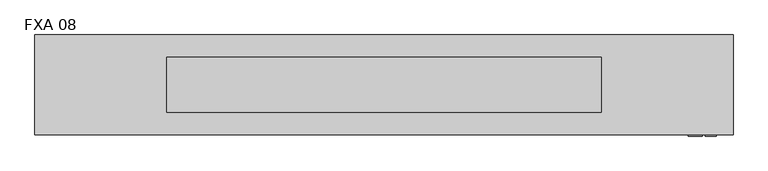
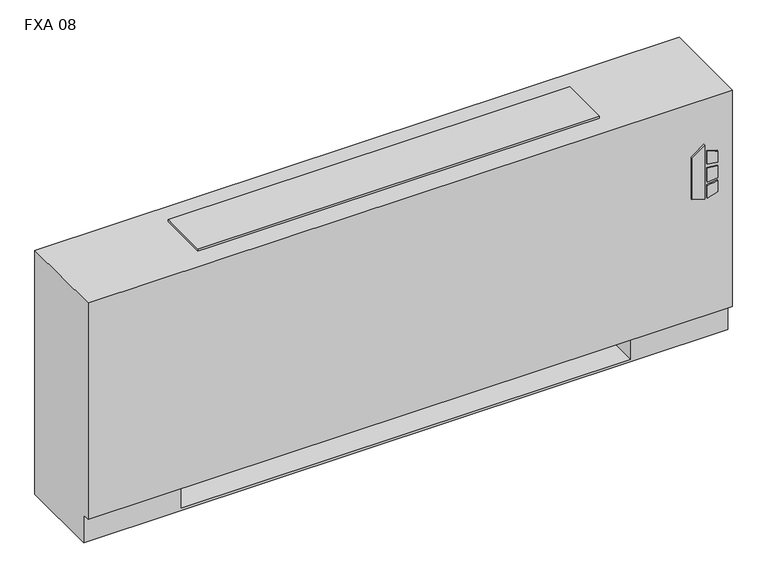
"""IFC4 building model written with IfcOpenShell, lengths in millimetres: proxy geometry, Vertical_Fan_Coil_Unit_-_FXA_-_IEC_-_4-Pipe_TS-FR_RH_2022 : FXA 08."""

from ifc_helpers import new_model, si_unit, point, frame, frame_2d, origin, place, context, project, spatial, polyline, circle_curve, trimmed, segment, composite_curve, outline, extrude, source, transform, mapped, element, save
from ifc_brep_helpers import plane_surface, revolved_surface, advanced_brep


def fxa_08_e378bd23(model_context):
    return source(origin(), model_context, "Body", "SolidModel", [
        extrude(outline(polyline([(391.6086829, 849.3868862), (381.6606126, 881.5602728), (523.831537, 881.5602728), (500.8095309, 849.3868862), (391.6086829, 849.3868862)])), frame((0.0, 12.7, 0.0), z_axis=(0.0, 1.0, 0.0), x_axis=(0.0, 0.0, 1.0)), (0.0, 0.0, 1.0), 3.175),
        extrude(outline(polyline([(470.6079683, 888.3186058), (467.4055757, 914.4), (496.6344168, 914.4), (504.6988318, 888.3186058), (470.6079683, 888.3186058)])), frame((0.0, 12.7, 0.0), z_axis=(0.0, 1.0, 0.0), x_axis=(0.0, 0.0, 1.0)), (0.0, 0.0, 1.0), 3.175),
        extrude(outline(polyline([(418.7444414, 914.4), (415.0789404, 888.3186058), (381.6606126, 888.3186058), (390.2948498, 914.4), (418.7444414, 914.4)])), frame((0.0, 12.7, 0.0), z_axis=(0.0, 1.0, 0.0), x_axis=(0.0, 0.0, 1.0)), (0.0, 0.0, 1.0), 3.175),
        extrude(outline(polyline([(458.0596028, 914.4), (460.3414292, 888.3186058), (424.4038806, 888.3186058), (427.1451456, 914.4), (458.0596028, 914.4)])), frame((0.0, 12.7, 0.0), z_axis=(0.0, 1.0, 0.0), x_axis=(0.0, 0.0, 1.0)), (0.0, 0.0, 1.0), 3.175),
        extrude(outline(polyline([(-527.05, 81.534), (-527.05, 223.266), (-406.4, 223.266), (-406.4, 81.534), (-527.05, 81.534)])), frame((0.0, 0.0, 327.025), z_axis=(0.0, 0.0, 1.0), x_axis=(1.0, 0.0, 0.0)), (0.0, 0.0, 1.0), 260.35),
        extrude(outline(composite_curve([segment(trimmed(circle_curve(frame_2d((774.7, 130.175)), 9.525), [point((765.175, 130.175))], [point((784.225, 130.175))], False, "CARTESIAN"), True, "CONTINUOUS"), segment(trimmed(circle_curve(frame_2d((774.7, 130.175)), 9.525), [point((784.225, 130.175))], [point((765.175, 130.175))], False, "CARTESIAN"), True, "CONTINUOUS")], self_intersect=False)), frame((0.0, 0.0, 101.6), z_axis=(0.0, 0.0, 1.0), x_axis=(1.0, 0.0, 0.0)), (0.0, 0.0, 1.0), 25.4),
        extrude(outline(polyline([(869.95, 196.85), (869.95, 63.5), (711.2, 63.5), (711.2, 196.85), (869.95, 196.85)])), frame((0.0, 0.0, 127.0), z_axis=(0.0, 0.0, 1.0), x_axis=(1.0, 0.0, 0.0)), (0.0, 0.0, 1.0), 50.8),
        extrude(outline(composite_curve([segment(trimmed(circle_curve(frame_2d((109.0168, 457.2)), 7.9375), [point((109.0168, 465.1375))], [point((109.0168, 449.2625))], False, "CARTESIAN"), True, "CONTINUOUS"), segment(trimmed(circle_curve(frame_2d((109.0168, 457.2)), 7.9375), [point((109.0168, 449.2625))], [point((109.0168, 465.1375))], False, "CARTESIAN"), True, "CONTINUOUS")], self_intersect=False)), frame((711.2, 0.0, 0.0), z_axis=(1.0, 0.0, 0.0), x_axis=(0.0, 1.0, 0.0)), (0.0, 0.0, 1.0), 50.8),
        extrude(outline(composite_curve([segment(trimmed(circle_curve(frame_2d((172.085, 460.0194)), 7.9375), [point((172.085, 467.9569))], [point((172.085, 452.0819))], False, "CARTESIAN"), True, "CONTINUOUS"), segment(trimmed(circle_curve(frame_2d((172.085, 460.0194)), 7.9375), [point((172.085, 452.0819))], [point((172.085, 467.9569))], False, "CARTESIAN"), True, "CONTINUOUS")], self_intersect=False)), frame((711.2, 0.0, 0.0), z_axis=(1.0, 0.0, 0.0), x_axis=(0.0, 1.0, 0.0)), (0.0, 0.0, 1.0), 50.8),
        extrude(outline(composite_curve([segment(trimmed(circle_curve(frame_2d((130.175, 554.99)), 7.9502), [point((130.175, 562.9402))], [point((130.175, 547.0398))], False, "CARTESIAN"), True, "CONTINUOUS"), segment(trimmed(circle_curve(frame_2d((130.175, 554.99)), 7.9502), [point((130.175, 547.0398))], [point((130.175, 562.9402))], False, "CARTESIAN"), True, "CONTINUOUS")], self_intersect=False)), frame((711.2, 0.0, 0.0), z_axis=(1.0, 0.0, 0.0), x_axis=(0.0, 1.0, 0.0)), (0.0, 0.0, 1.0), 50.8),
        extrude(outline(composite_curve([segment(trimmed(circle_curve(frame_2d((53.975, 416.56)), 7.9502), [point((53.975, 424.5102))], [point((53.975, 408.6098))], False, "CARTESIAN"), True, "CONTINUOUS"), segment(trimmed(circle_curve(frame_2d((53.975, 416.56)), 7.9502), [point((53.975, 408.6098))], [point((53.975, 424.5102))], False, "CARTESIAN"), True, "CONTINUOUS")], self_intersect=False)), frame((711.2, 0.0, 0.0), z_axis=(1.0, 0.0, 0.0), x_axis=(0.0, 1.0, 0.0)), (0.0, 0.0, 1.0), 50.8),
        advanced_brep(
        [(952.5, 244.475, 641.35), (-647.7, 244.475, 641.35), (-647.7, 15.875, 641.35), (952.5, 15.875, 641.35), (-647.7, 244.475, 0.0), (952.5, 244.475, 0.0), (952.5, 34.925, 0.0), (-647.7, 34.925, 0.0), (711.2, 244.475, 73.025), (939.8, 244.475, 73.025), (939.8, 244.475, 628.65), (711.2, 244.475, 628.65), (711.2, 244.475, 414.8650565), (739.775, 244.475, 414.8650565), (739.775, 244.475, 385.2349435), (711.2, 244.475, 385.2349435), (711.2, 244.475, 287.3375), (739.775, 244.475, 287.3375), (739.775, 244.475, 258.7625), (711.2, 244.475, 258.7625), (711.2, 244.475, 141.2875), (739.775, 244.475, 141.2875), (739.775, 244.475, 112.7125), (711.2, 244.475, 112.7125), (-406.4, 244.475, 628.65), (-635.0, 244.475, 628.65), (-635.0, 244.475, 73.025), (-406.4, 244.475, 73.025), (-406.4, 244.475, 112.7125), (-434.975, 244.475, 112.7125), (-434.975, 244.475, 141.2875), (-406.4, 244.475, 141.2875), (-406.4, 244.475, 258.7625), (-434.975, 244.475, 258.7625), (-434.975, 244.475, 287.3375), (-406.4, 244.475, 287.3375), (-406.4, 244.475, 385.2349435), (-434.975, 244.475, 385.2349435), (-434.975, 244.475, 414.8650565), (-406.4, 244.475, 414.8650565), (729.4626, 244.475, 127.0), (718.3374, 244.475, 127.0), (729.4626, 244.475, 400.05), (718.3374, 244.475, 400.05), (729.4626, 244.475, 273.05), (718.3374, 244.475, 273.05), (-413.5374, 244.475, 127.0), (-424.6626, 244.475, 127.0), (-413.5374, 244.475, 273.05), (-424.6626, 244.475, 273.05), (-413.5374, 244.475, 400.05), (-424.6626, 244.475, 400.05), (-647.7, 34.925, 73.025), (-647.7, 15.875, 73.025), (952.5, 15.875, 73.025), (952.5, 34.925, 73.025), (-406.4, 34.925, 73.025), (-406.4, 219.075, 73.025), (711.2, 219.075, 73.025), (711.2, 34.925, 73.025), (711.2, 34.925, 6.35), (-406.4, 34.925, 6.35), (711.2, 41.275, 628.65), (939.8, 41.275, 628.65), (939.8, 41.275, 73.025), (711.2, 41.275, 73.025), (-406.4, 41.275, 628.65), (-406.4, 41.275, 73.025), (-635.0, 41.275, 73.025), (-635.0, 41.275, 628.65), (711.2, 219.075, 73.025), (711.2, 238.125, 112.7125), (711.2, 238.125, 141.2875), (711.2, 238.125, 258.7625), (711.2, 238.125, 287.3375), (711.2, 238.125, 385.2349435), (711.2, 238.125, 414.8650565), (-406.4, 219.075, 73.025), (-406.4, 238.125, 414.8650565), (-406.4, 238.125, 385.2349435), (-406.4, 238.125, 287.3375), (-406.4, 238.125, 258.7625), (-406.4, 238.125, 141.2875), (-406.4, 238.125, 112.7125), (-406.4, 219.075, 6.35), (711.2, 219.075, 6.35), (739.775, 238.125, 112.7125), (739.775, 238.125, 141.2875), (718.3374, 238.125, 127.0), (729.4626, 238.125, 127.0), (739.775, 238.125, 258.7625), (739.775, 238.125, 287.3375), (718.3374, 238.125, 273.05), (729.4626, 238.125, 273.05), (739.775, 238.125, 385.2349435), (739.775, 238.125, 414.8650565), (718.3374, 238.125, 400.05), (729.4626, 238.125, 400.05), (-434.975, 238.125, 141.2875), (-434.975, 238.125, 112.7125), (-424.6626, 238.125, 127.0), (-413.5374, 238.125, 127.0), (-434.975, 238.125, 287.3375), (-434.975, 238.125, 258.7625), (-424.6626, 238.125, 273.05), (-413.5374, 238.125, 273.05), (-434.975, 238.125, 414.8650565), (-434.975, 238.125, 385.2349435), (-424.6626, 238.125, 400.05), (-413.5374, 238.125, 400.05)],
        [
            (0, 1),
            (1, 2),
            (2, 3),
            (3, 0),
            (4, 5),
            (5, 6),
            (6, 7),
            (7, 4),
            (0, 5),
            (4, 1),
            (8, 9),
            (9, 10),
            (10, 11),
            (11, 12),
            (12, 13),
            (13, 14),
            (14, 15),
            (15, 16),
            (16, 17),
            (17, 18),
            (18, 19),
            (19, 20),
            (20, 21),
            (21, 22),
            (22, 23),
            (23, 8),
            (24, 25),
            (25, 26),
            (26, 27),
            (27, 28),
            (28, 29),
            (29, 30),
            (30, 31),
            (31, 32),
            (32, 33),
            (33, 34),
            (34, 35),
            (35, 36),
            (36, 37),
            (37, 38),
            (38, 39),
            (39, 24),
            (40, 41, circle_curve(frame((723.9, 244.475, 127.0), z_axis=(0.0, -1.0, 0.0), x_axis=(-1.0, 0.0, 0.0)), 5.5626)),
            (41, 40, circle_curve(frame((723.9, 244.475, 127.0), z_axis=(0.0, -1.0, 0.0), x_axis=(-1.0, 0.0, 0.0)), 5.5626)),
            (42, 43, circle_curve(frame((723.9, 244.475, 400.05), z_axis=(0.0, -1.0, 0.0), x_axis=(-1.0, 0.0, 0.0)), 5.5626)),
            (43, 42, circle_curve(frame((723.9, 244.475, 400.05), z_axis=(0.0, -1.0, 0.0), x_axis=(-1.0, 0.0, 0.0)), 5.5626)),
            (44, 45, circle_curve(frame((723.9, 244.475, 273.05), z_axis=(0.0, -1.0, 0.0), x_axis=(-1.0, 0.0, 0.0)), 5.5626)),
            (45, 44, circle_curve(frame((723.9, 244.475, 273.05), z_axis=(0.0, -1.0, 0.0), x_axis=(-1.0, 0.0, 0.0)), 5.5626)),
            (46, 47, circle_curve(frame((-419.1, 244.475, 127.0), z_axis=(0.0, -1.0, 0.0), x_axis=(-1.0, 0.0, 0.0)), 5.5626)),
            (47, 46, circle_curve(frame((-419.1, 244.475, 127.0), z_axis=(0.0, -1.0, 0.0), x_axis=(-1.0, 0.0, 0.0)), 5.5626)),
            (48, 49, circle_curve(frame((-419.1, 244.475, 273.05), z_axis=(0.0, -1.0, 0.0), x_axis=(-1.0, 0.0, 0.0)), 5.5626)),
            (49, 48, circle_curve(frame((-419.1, 244.475, 273.05), z_axis=(0.0, -1.0, 0.0), x_axis=(-1.0, 0.0, 0.0)), 5.5626)),
            (50, 51, circle_curve(frame((-419.1, 244.475, 400.05), z_axis=(0.0, -1.0, 0.0), x_axis=(-1.0, 0.0, 0.0)), 5.5626)),
            (51, 50, circle_curve(frame((-419.1, 244.475, 400.05), z_axis=(0.0, -1.0, 0.0), x_axis=(-1.0, 0.0, 0.0)), 5.5626)),
            (7, 52),
            (52, 53),
            (53, 2),
            (53, 54),
            (54, 3),
            (54, 55),
            (55, 6),
            (52, 56),
            (56, 57),
            (57, 58),
            (58, 59),
            (59, 55),
            (59, 60),
            (60, 61),
            (61, 56),
            (62, 63),
            (63, 64),
            (64, 65),
            (65, 62),
            (66, 67),
            (67, 68),
            (68, 69),
            (69, 66),
            (65, 70),
            (70, 8),
            (23, 71),
            (71, 72),
            (72, 20),
            (19, 73),
            (73, 74),
            (74, 16),
            (15, 75),
            (75, 76),
            (76, 12),
            (11, 62),
            (64, 9),
            (63, 10),
            (69, 25),
            (24, 66),
            (68, 26),
            (67, 77),
            (77, 27),
            (39, 78),
            (78, 79),
            (79, 36),
            (35, 80),
            (80, 81),
            (81, 32),
            (31, 82),
            (82, 83),
            (83, 28),
            (57, 84),
            (84, 85),
            (85, 58),
            (85, 60),
            (84, 61),
            (71, 86),
            (86, 87),
            (87, 72),
            (88, 89, circle_curve(frame((723.9, 238.125, 127.0), z_axis=(0.0, 1.0, 0.0), x_axis=(-1.0, 0.0, 0.0)), 5.5626)),
            (89, 88, circle_curve(frame((723.9, 238.125, 127.0), z_axis=(0.0, 1.0, 0.0), x_axis=(-1.0, 0.0, 0.0)), 5.5626)),
            (73, 90),
            (90, 91),
            (91, 74),
            (92, 93, circle_curve(frame((723.9, 238.125, 273.05), z_axis=(0.0, 1.0, 0.0), x_axis=(-1.0, 0.0, 0.0)), 5.5626)),
            (93, 92, circle_curve(frame((723.9, 238.125, 273.05), z_axis=(0.0, 1.0, 0.0), x_axis=(-1.0, 0.0, 0.0)), 5.5626)),
            (75, 94),
            (94, 95),
            (95, 76),
            (96, 97, circle_curve(frame((723.9, 238.125, 400.05), z_axis=(0.0, 1.0, 0.0), x_axis=(-1.0, 0.0, 0.0)), 5.5626)),
            (97, 96, circle_curve(frame((723.9, 238.125, 400.05), z_axis=(0.0, 1.0, 0.0), x_axis=(-1.0, 0.0, 0.0)), 5.5626)),
            (98, 99),
            (99, 83),
            (82, 98),
            (100, 101, circle_curve(frame((-419.1, 238.125, 127.0), z_axis=(0.0, 1.0, 0.0), x_axis=(-1.0, 0.0, 0.0)), 5.5626)),
            (101, 100, circle_curve(frame((-419.1, 238.125, 127.0), z_axis=(0.0, 1.0, 0.0), x_axis=(-1.0, 0.0, 0.0)), 5.5626)),
            (102, 103),
            (103, 81),
            (80, 102),
            (104, 105, circle_curve(frame((-419.1, 238.125, 273.05), z_axis=(0.0, 1.0, 0.0), x_axis=(-1.0, 0.0, 0.0)), 5.5626)),
            (105, 104, circle_curve(frame((-419.1, 238.125, 273.05), z_axis=(0.0, 1.0, 0.0), x_axis=(-1.0, 0.0, 0.0)), 5.5626)),
            (106, 107),
            (107, 79),
            (78, 106),
            (108, 109, circle_curve(frame((-419.1, 238.125, 400.05), z_axis=(0.0, 1.0, 0.0), x_axis=(-1.0, 0.0, 0.0)), 5.5626)),
            (109, 108, circle_curve(frame((-419.1, 238.125, 400.05), z_axis=(0.0, 1.0, 0.0), x_axis=(-1.0, 0.0, 0.0)), 5.5626)),
            (87, 21),
            (86, 22),
            (91, 17),
            (90, 18),
            (95, 13),
            (94, 14),
            (30, 98),
            (99, 29),
            (34, 102),
            (103, 33),
            (38, 106),
            (107, 37),
            (88, 41),
            (40, 89),
            (96, 43),
            (42, 97),
            (92, 45),
            (44, 93),
            (100, 47),
            (46, 101),
            (104, 49),
            (48, 105),
            (108, 51),
            (50, 109),
        ],
        [
            plane_surface(frame((-647.7, 244.475, 641.35), z_axis=(0.0, 0.0, 1.0), x_axis=(-1.0, 0.0, 0.0))),
            plane_surface(frame((-647.7, 244.475, 0.0), z_axis=(0.0, 0.0, -1.0), x_axis=(1.0, 0.0, 0.0))),
            plane_surface(frame((952.5, 244.475, 641.35), z_axis=(0.0, 1.0, 0.0), x_axis=(0.0, 0.0, -1.0))),
            plane_surface(frame((-647.7, 244.475, 641.35), z_axis=(-1.0, 0.0, 0.0), x_axis=(0.0, 0.0, -1.0))),
            plane_surface(frame((-647.7, 15.875, 641.35), z_axis=(0.0, -1.0, 0.0), x_axis=(0.0, 0.0, -1.0))),
            plane_surface(frame((952.5, 15.875, 641.35), z_axis=(1.0, 0.0, 0.0), x_axis=(0.0, 0.0, -1.0))),
            plane_surface(frame((-647.7, 15.875, 73.025), z_axis=(0.0, 0.0, -1.0), x_axis=(1.0, 0.0, 0.0))),
            plane_surface(frame((-647.7, 34.925, 73.025), z_axis=(0.0, -1.0, 0.0), x_axis=(1.0, 0.0, 0.0))),
            plane_surface(frame((711.2, 41.275, 628.65), z_axis=(0.0, 1.0, 0.0), x_axis=(0.0, 0.0, -1.0))),
            plane_surface(frame((711.2, 41.275, 628.65), z_axis=(1.0, 0.0, 0.0), x_axis=(0.0, 1.0, 0.0))),
            plane_surface(frame((711.2, 41.275, 73.025), z_axis=(0.0, 0.0, 1.0), x_axis=(0.0, 1.0, 0.0))),
            plane_surface(frame((939.8, 41.275, 73.025), z_axis=(-1.0, 0.0, 0.0), x_axis=(0.0, 1.0, 0.0))),
            plane_surface(frame((939.8, 41.275, 628.65), z_axis=(0.0, 0.0, -1.0), x_axis=(0.0, 1.0, 0.0))),
            plane_surface(frame((-406.4, 41.275, 628.65), z_axis=(0.0, 0.0, -1.0), x_axis=(0.0, 1.0, 0.0))),
            plane_surface(frame((-635.0, 41.275, 628.65), z_axis=(1.0, 0.0, 0.0), x_axis=(0.0, 1.0, 0.0))),
            plane_surface(frame((-635.0, 41.275, 73.025), z_axis=(0.0, 0.0, 1.0), x_axis=(0.0, 1.0, 0.0))),
            plane_surface(frame((-406.4, 41.275, 73.025), z_axis=(-1.0, 0.0, 0.0), x_axis=(0.0, 1.0, 0.0))),
            plane_surface(frame((711.2, 219.075, 73.025), z_axis=(0.0, -1.0, 0.0), x_axis=(0.0, 0.0, -1.0))),
            plane_surface(frame((711.2, 219.075, 73.025), z_axis=(-1.0, 0.0, 0.0), x_axis=(0.0, -1.0, 0.0))),
            plane_surface(frame((711.2, 219.075, 6.35), z_axis=(0.0, 0.0, 1.0), x_axis=(0.0, -1.0, 0.0))),
            plane_surface(frame((-406.4, 219.075, 6.35), z_axis=(1.0, 0.0, 0.0), x_axis=(0.0, -1.0, 0.0))),
            plane_surface(frame((739.775, 238.125, 141.2875), z_axis=(0.0, -1.0, 0.0), x_axis=(-1.0, 0.0, 0.0))),
            plane_surface(frame((711.2, 244.475, 141.2875), z_axis=(0.0, 0.0, 1.0), x_axis=(0.0, -1.0, 0.0))),
            plane_surface(frame((739.775, 244.475, 141.2875), z_axis=(1.0, 0.0, 0.0), x_axis=(0.0, -1.0, 0.0))),
            plane_surface(frame((739.775, 244.475, 112.7125), z_axis=(0.0, 0.0, -1.0), x_axis=(0.0, -1.0, 0.0))),
            plane_surface(frame((711.2, 244.475, 287.3375), z_axis=(0.0, 0.0, 1.0), x_axis=(0.0, -1.0, 0.0))),
            plane_surface(frame((739.775, 244.475, 287.3375), z_axis=(1.0, 0.0, 0.0), x_axis=(0.0, -1.0, 0.0))),
            plane_surface(frame((739.775, 244.475, 258.7625), z_axis=(0.0, 0.0, -1.0), x_axis=(0.0, -1.0, 0.0))),
            plane_surface(frame((711.2, 244.475, 414.8650565), z_axis=(0.0, 0.0, 1.0), x_axis=(0.0, -1.0, 0.0))),
            plane_surface(frame((739.775, 244.475, 414.8650565), z_axis=(1.0, 0.0, 0.0), x_axis=(0.0, -1.0, 0.0))),
            plane_surface(frame((739.775, 244.475, 385.2349435), z_axis=(0.0, 0.0, -1.0), x_axis=(0.0, -1.0, 0.0))),
            plane_surface(frame((-434.975, 244.475, 141.2875), z_axis=(0.0, 0.0, 1.0), x_axis=(0.0, -1.0, 0.0))),
            plane_surface(frame((-406.4, 244.475, 112.7125), z_axis=(0.0, 0.0, -1.0), x_axis=(0.0, -1.0, 0.0))),
            plane_surface(frame((-434.975, 244.475, 112.7125), z_axis=(-1.0, 0.0, 0.0), x_axis=(0.0, -1.0, 0.0))),
            plane_surface(frame((-434.975, 244.475, 287.3375), z_axis=(0.0, 0.0, 1.0), x_axis=(0.0, -1.0, 0.0))),
            plane_surface(frame((-406.4, 244.475, 258.7625), z_axis=(0.0, 0.0, -1.0), x_axis=(0.0, -1.0, 0.0))),
            plane_surface(frame((-434.975, 244.475, 258.7625), z_axis=(-1.0, 0.0, 0.0), x_axis=(0.0, -1.0, 0.0))),
            plane_surface(frame((-434.975, 244.475, 414.8650565), z_axis=(0.0, 0.0, 1.0), x_axis=(0.0, -1.0, 0.0))),
            plane_surface(frame((-406.4, 244.475, 385.2349435), z_axis=(0.0, 0.0, -1.0), x_axis=(0.0, -1.0, 0.0))),
            plane_surface(frame((-434.975, 244.475, 385.2349435), z_axis=(-1.0, 0.0, 0.0), x_axis=(0.0, -1.0, 0.0))),
            revolved_surface(polyline([(718.3374, 238.125, 127.0), (718.3374, 244.475, 127.0)]), (723.9, 244.475, 127.0), (0.0, -1.0, 0.0)),
            revolved_surface(polyline([(718.3374, 238.125, 400.05), (718.3374, 244.475, 400.05)]), (723.9, 244.475, 400.05), (0.0, -1.0, 0.0)),
            revolved_surface(polyline([(718.3374, 238.125, 273.05), (718.3374, 244.475, 273.05)]), (723.9, 244.475, 273.05), (0.0, -1.0, 0.0)),
            revolved_surface(polyline([(-424.6626, 238.125, 127.0), (-424.6626, 244.475, 127.0)]), (-419.1, 244.475, 127.0), (0.0, -1.0, 0.0)),
            revolved_surface(polyline([(-424.6626, 238.125, 273.05), (-424.6626, 244.475, 273.05)]), (-419.1, 244.475, 273.05), (0.0, -1.0, 0.0)),
            revolved_surface(polyline([(-424.6626, 238.125, 400.05), (-424.6626, 244.475, 400.05)]), (-419.1, 244.475, 400.05), (0.0, -1.0, 0.0)),
        ],
        [
            (0, [[1, 2, 3, 4]]),
            (1, [[5, 6, 7, 8]]),
            (2, [[-1, 9, -5, 10], [11, 12, 13, 14, 15, 16, 17, 18, 19, 20, 21, 22, 23, 24, 25, 26], [27, 28, 29, 30, 31, 32, 33, 34, 35, 36, 37, 38, 39, 40, 41, 42], [43, 44], [45, 46], [47, 48], [49, 50], [51, 52], [53, 54]]),
            (3, [[-2, -10, -8, 55, 56, 57]]),
            (4, [[-3, -57, 58, 59]]),
            (5, [[-4, -59, 60, 61, -6, -9]]),
            (6, [[-56, 62, 63, 64, 65, 66, -60, -58]]),
            (7, [[-7, -61, -66, 67, 68, 69, -62, -55]]),
            (8, [[70, 71, 72, 73]]),
            (8, [[74, 75, 76, 77]]),
            (9, [[-73, 78, 79, -26, 80, 81, 82, -22, 83, 84, 85, -18, 86, 87, 88, -14, 89]]),
            (10, [[-72, 90, -11, -79, -78]]),
            (11, [[-71, 91, -12, -90]]),
            (12, [[-70, -89, -13, -91]]),
            (13, [[-77, 92, -27, 93]]),
            (14, [[-76, 94, -28, -92]]),
            (15, [[-75, 95, 96, -29, -94]]),
            (16, [[-74, -93, -42, 97, 98, 99, -38, 100, 101, 102, -34, 103, 104, 105, -30, -96, -95]]),
            (17, [[-64, 106, 107, 108]]),
            (18, [[-108, 109, -67, -65]]),
            (19, [[-107, 110, -68, -109]]),
            (20, [[-106, -63, -69, -110]]),
            (21, [[111, 112, 113, -81], [114, 115]]),
            (21, [[116, 117, 118, -84], [119, 120]]),
            (21, [[121, 122, 123, -87], [124, 125]]),
            (21, [[126, 127, -104, 128], [129, 130]]),
            (21, [[131, 132, -101, 133], [134, 135]]),
            (21, [[136, 137, -98, 138], [139, 140]]),
            (22, [[-113, 141, -23, -82]]),
            (23, [[-112, 142, -24, -141]]),
            (24, [[-111, -80, -25, -142]]),
            (25, [[-118, 143, -19, -85]]),
            (26, [[-117, 144, -20, -143]]),
            (27, [[-116, -83, -21, -144]]),
            (28, [[-123, 145, -15, -88]]),
            (29, [[-122, 146, -16, -145]]),
            (30, [[-121, -86, -17, -146]]),
            (31, [[-128, -103, -33, 147]]),
            (32, [[-127, 148, -31, -105]]),
            (33, [[-126, -147, -32, -148]]),
            (34, [[-133, -100, -37, 149]]),
            (35, [[-132, 150, -35, -102]]),
            (36, [[-131, -149, -36, -150]]),
            (37, [[-138, -97, -41, 151]]),
            (38, [[-137, 152, -39, -99]]),
            (39, [[-136, -151, -40, -152]]),
            (40, [[153, -43, 154, -114]]),
            (40, [[-153, -115, -154, -44]]),
            (41, [[155, -45, 156, -124]]),
            (41, [[-155, -125, -156, -46]]),
            (42, [[157, -47, 158, -119]]),
            (42, [[-157, -120, -158, -48]]),
            (43, [[159, -49, 160, -129]]),
            (43, [[-159, -130, -160, -50]]),
            (44, [[161, -51, 162, -134]]),
            (44, [[-161, -135, -162, -52]]),
            (45, [[163, -53, 164, -139]]),
            (45, [[-163, -140, -164, -54]]),
        ],
    ),
        extrude(outline(polyline([(650.875, 193.675), (650.875, 66.675), (-346.075, 66.675), (-346.075, 193.675), (650.875, 193.675)])), frame((0.0, 0.0, 641.35), z_axis=(0.0, 0.0, 1.0), x_axis=(1.0, 0.0, 0.0)), (0.0, 0.0, 1.0), 6.35),
    ])


if __name__ == "__main__":
    model = new_model("IFC4")
    model_context = context("Model", 3, world=origin())
    ifc_project = project(units=[si_unit("LENGTHUNIT", "METRE", prefix="MILLI")], contexts=[model_context])
    site = spatial("IfcSite", under=ifc_project)
    building = spatial("IfcBuilding", under=site)
    placement = place(None, origin())
    fxa_08_shape = fxa_08_e378bd23(model_context)
    element("IfcBuildingElementProxy", 1, Name="Vertical_Fan_Coil_Unit_-_FXA_-_IEC_-_4-Pipe_TS-FR_RH_2022 : FXA 08", ObjectType="Vertical_Fan_Coil_Unit_-_FXA_-_IEC_-_4-Pipe_TS-FR_RH_2022 : FXA 08", at=placement, inside=building, context=model_context, shape_type="MappedRepresentation", body=[
        mapped(fxa_08_shape, transform((0.0, 0.0, 0.0), x_axis=(1.0, 0.0, 0.0), y_axis=(0.0, 1.0, 0.0), z_axis=(0.0, 0.0, 1.0))),
    ])
    save(model, "model.ifc")
